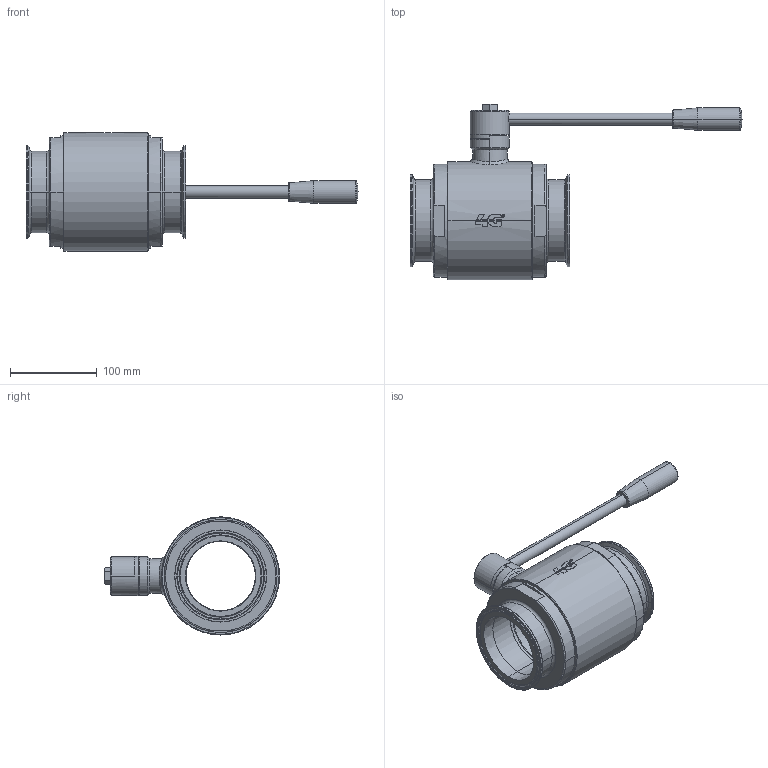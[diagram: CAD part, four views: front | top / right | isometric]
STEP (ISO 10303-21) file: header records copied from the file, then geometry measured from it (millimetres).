
FILE_DESCRIPTION((''),'2;1');
FILE_NAME('10013064910_SW0001','2025-05-05T16:49:48',('tecnico2'),('CDM Tecnoconsulting'),'CREO PARAMETRIC BY PTC INC, 2024063','CREO PARAMETRIC BY PTC INC, 2024063','');
FILE_SCHEMA(('CONFIG_CONTROL_DESIGN','SHAPE_APPEARANCE_LAYERS_GROUPS'));
Products named in the file (1): 10013064910_SW0001
Bounding box: 382.5 x 202 x 136 mm (x, y, z)
Volume: 1336209.5 mm3; surface area: 265374.5 mm2
Topology: 1 solids, 1 shells, 737 faces, 2002 edges, 1267 vertices
Faces by surface type: plane 306, cylinder 153, cone 100, torus 58, bspline 58, extrusion 56, sphere 6
Entity records: 58642 total; most frequent: CARTESIAN_POINT 34370, ORIENTED_EDGE 3968, DIRECTION 3329, PRESENTATION_STYLE_ASSIGNMENT 2036, STYLED_ITEM 1985, CURVE_STYLE 1984, EDGE_CURVE 1984, VERTEX_POINT 1267
